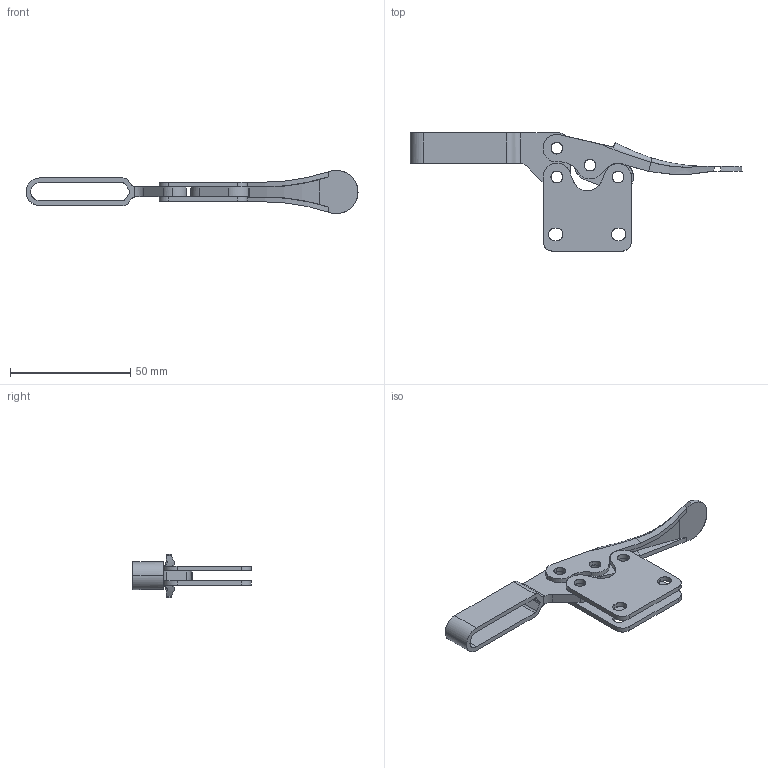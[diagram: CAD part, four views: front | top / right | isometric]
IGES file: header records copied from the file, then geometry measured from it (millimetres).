
Start section: Comment
Global section: file name: 201bi.igs; native system:  By Spatial Corp.; preprocessor: XPlus PS/IGES 3.0; author: Author; organization: Title; date: 20050217.080111; units: inch
Bounding box: 138.21 x 49.23 x 18 mm (x, y, z)
Surface area: 13607.4 mm2 (no closed solid volume)
Topology: 0 solids, 0 shells, 139 faces, 810 edges, 808 vertices
Faces by surface type: revolution 84, extrusion 51, bspline 4
